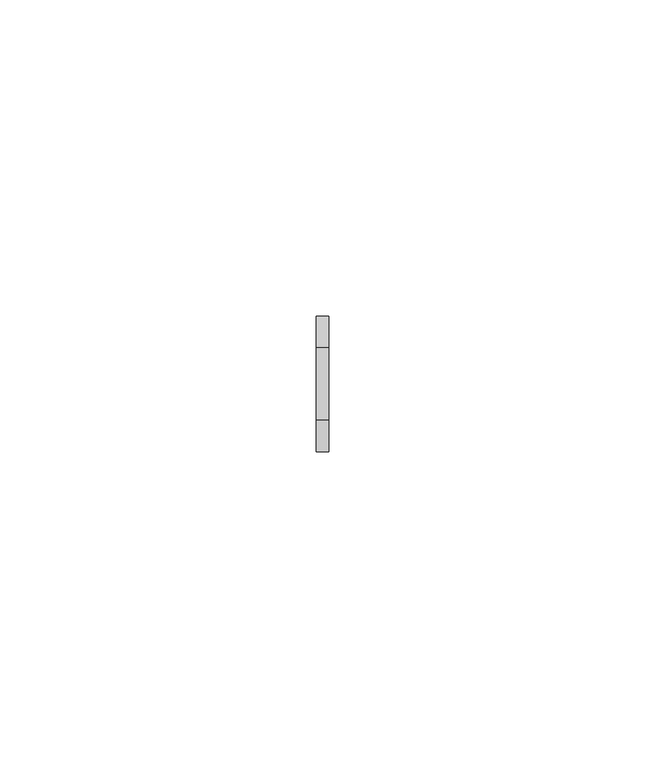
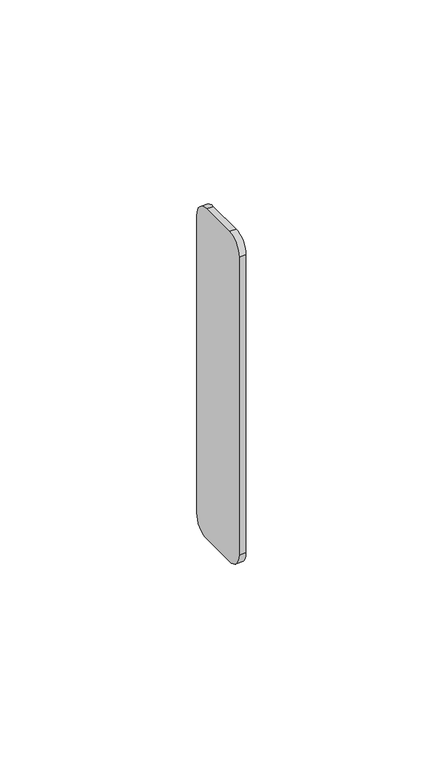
"""IFC4 building model written with IfcOpenShell, lengths in millimetres: proxy geometry, Odbojniki - OPW30R PLUS : Odbojniki - OPW30R PLUS."""

from ifc_helpers import new_model, si_unit, point, frame, frame_2d, origin, place, context, project, spatial, polyline, circle_curve, trimmed, segment, composite_curve, outline, extrude, source, transform, mapped, element, save


def generic_models_dae349cf(model_context):
    return source(origin(), model_context, "Body", "SweptSolid", [
        extrude(outline(composite_curve([segment(polyline([(53.5, 34.9697777), (53.5, -57.4)]), True, "CONTINUOUS"), segment(trimmed(circle_curve(frame_2d((48.5, -57.4)), 5.0), [point((53.5, -57.4))], [point((48.5, -62.4))], False, "CARTESIAN"), True, "CONTINUOUS"), segment(polyline([(48.5, -62.4), (37.0, -62.4)]), True, "CONTINUOUS"), segment(trimmed(circle_curve(frame_2d((37.0, -57.4)), 5.0), [point((37.0, -62.4))], [point((32.0, -57.4))], False, "CARTESIAN"), True, "CONTINUOUS"), segment(polyline([(32.0, -57.4), (32.0, 34.9697777)]), True, "CONTINUOUS"), segment(trimmed(circle_curve(frame_2d((37.0, 34.9697777)), 5.0), [point((32.0, 34.9697777))], [point((37.0, 39.9697777))], False, "CARTESIAN"), True, "CONTINUOUS"), segment(polyline([(37.0, 39.9697777), (48.5, 39.9697777)]), True, "CONTINUOUS"), segment(trimmed(circle_curve(frame_2d((48.5, 34.9697777)), 5.0), [point((48.5, 39.9697777))], [point((53.5, 34.9697777))], False, "CARTESIAN"), True, "CONTINUOUS")], self_intersect=False)), frame((-1.0, 0.0, 0.0), z_axis=(1.0, 0.0, 0.0), x_axis=(0.0, 1.0, 0.0)), (0.0, 0.0, 1.0), 2.0),
    ])


if __name__ == "__main__":
    model = new_model("IFC4")
    model_context = context("Model", 3, world=origin())
    ifc_project = project(units=[si_unit("LENGTHUNIT", "METRE", prefix="MILLI")], contexts=[model_context])
    site = spatial("IfcSite", under=ifc_project)
    building = spatial("IfcBuilding", under=site)
    placement = place(None, origin())
    generic_models_shape = generic_models_dae349cf(model_context)
    element("IfcBuildingElementProxy", 1, Name="Odbojniki - OPW30R PLUS : Odbojniki - OPW30R PLUS", ObjectType="Odbojniki - OPW30R PLUS : Odbojniki - OPW30R PLUS", at=placement, inside=building, context=model_context, shape_type="MappedRepresentation", body=[
        mapped(generic_models_shape, transform((0.0, 0.0, 0.0), x_axis=(1.0, 0.0, 0.0), y_axis=(0.0, 1.0, 0.0), z_axis=(0.0, 0.0, 1.0))),
    ])
    save(model, "model.ifc")
